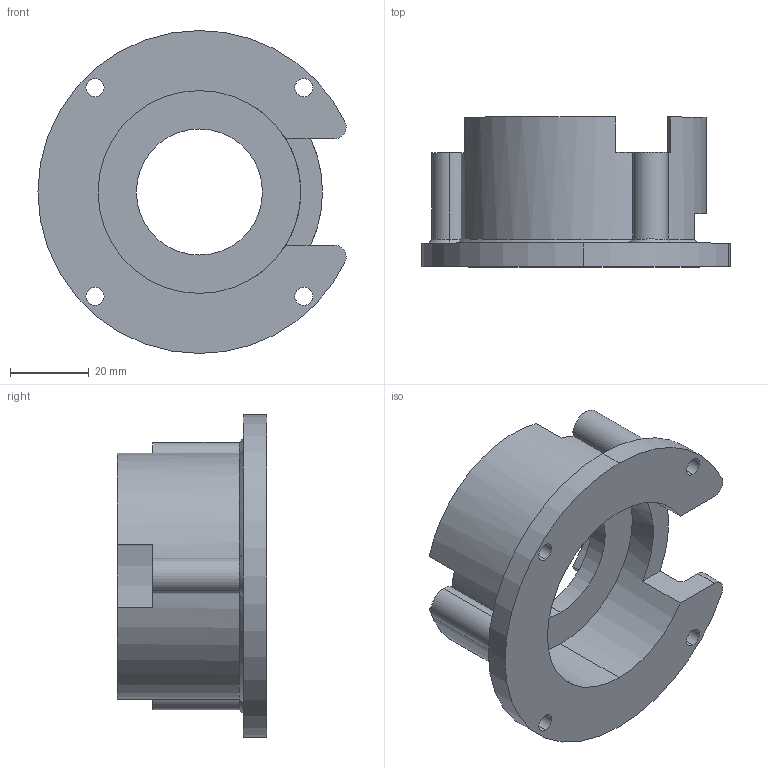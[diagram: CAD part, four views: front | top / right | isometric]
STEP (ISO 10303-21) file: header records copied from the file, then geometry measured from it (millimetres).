
FILE_DESCRIPTION (( 'STEP AP214' ), '1' );
FILE_NAME ('8.0000.4500.XXXX.STEP', '2009-09-17T06:30:05', ( 'admin' ), ( 'Fritz Kübler GmbH' ), 'SwSTEP 2.0', 'SolidWorks 2009', '' );
FILE_SCHEMA (( 'AUTOMOTIVE_DESIGN' ));
Length unit declared in the file: millimetre
Products named in the file (1): 8.0000.4500.XXXX
Bounding box: 78.23 x 38 x 82 mm (x, y, z)
Volume: 48948.3 mm3; surface area: 23009.3 mm2
Topology: 1 solids, 1 shells, 70 faces, 182 edges, 118 vertices
Faces by surface type: cylinder 39, plane 20, cone 11
Entity records: 2247 total; most frequent: DIRECTION 415, CARTESIAN_POINT 395, ORIENTED_EDGE 364, EDGE_CURVE 182, AXIS2_PLACEMENT_3D 170, VERTEX_POINT 118, CIRCLE 99, EDGE_LOOP 84
